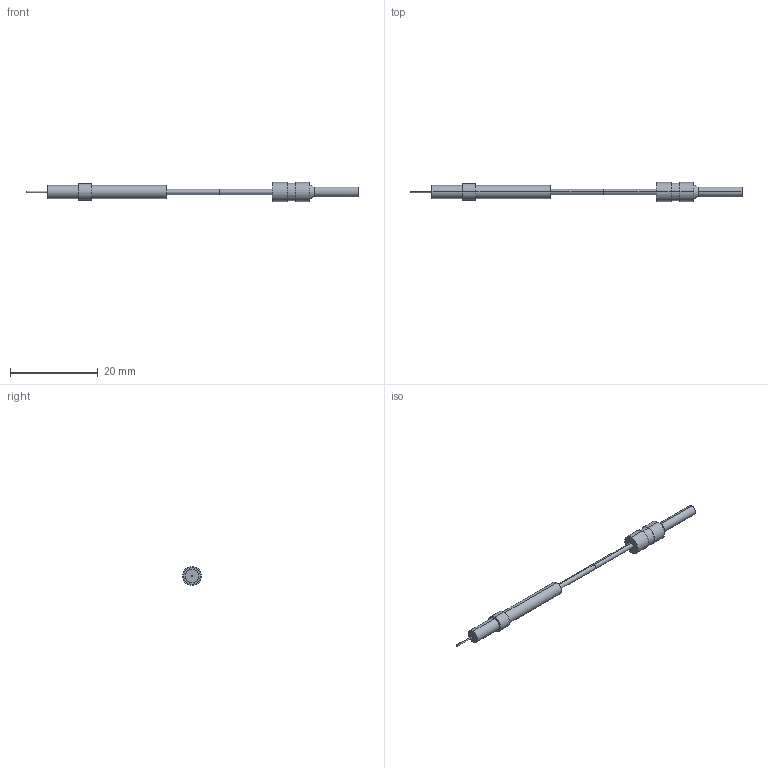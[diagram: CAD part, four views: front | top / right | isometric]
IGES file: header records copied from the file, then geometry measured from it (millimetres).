
Start section: SolidWorks IGES FILE using analytic representation for surfaces
Global section: file name: C:\Documents and Settings\yk0651\デスクトップ\3D_catalog_050929\0_IGES\FT-E22.IGS; native system: SolidWorks 2004 by SolidWorks Corporation; preprocessor: Version 5.3; author: yk0651; date: 051002.165507; units: millimetre
Bounding box: 75.5 x 4.33 x 4.33 mm (x, y, z)
Volume: 396.8 mm3; surface area: 602.8 mm2
Topology: 2 solids, 2 shells, 37 faces, 70 edges, 46 vertices
Faces by surface type: revolution 24, plane 13
